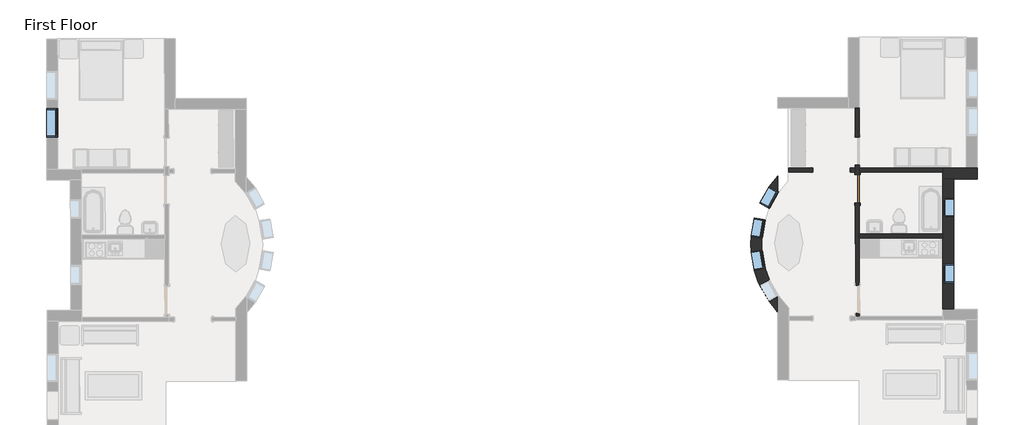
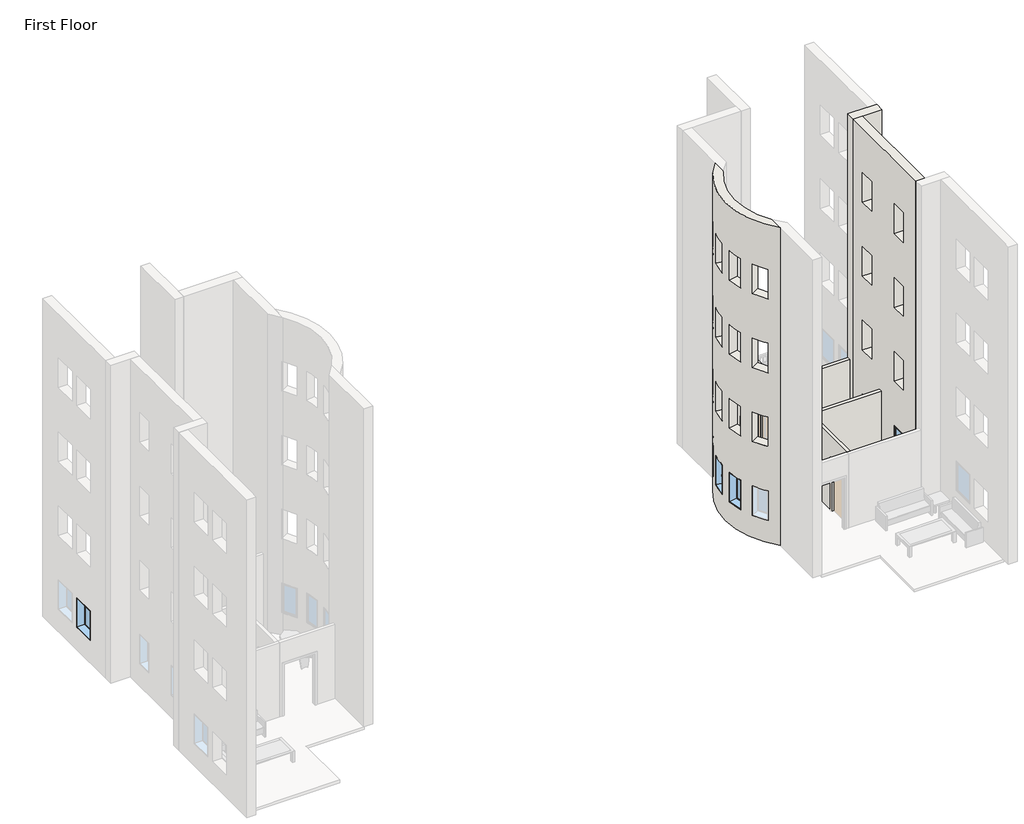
# One storey, part 7 of 21: 7 walls, 6 windows, 1 door.
"""IFC4 building model written with IfcOpenShell, lengths in millimetres."""

from ifc_helpers import new_model, si_unit, frame, origin, origin_with_axes, place, context, project, spatial, polyline, circle_curve, outline, extrude, faceted_brep, transform, mapped, element, save
from ifc_brep_helpers import plane_surface, cylinder_surface, revolved_surface, advanced_brep
from components import door_a3eb833a, window_60baf983, window_ed80354a, window_0e2fc6ce

model = new_model("IFC4")

# Units and contexts
model_context = context("Model", 3, world=origin())
ifc_project = project(units=[si_unit("LENGTHUNIT", "METRE", prefix="MILLI")], contexts=[model_context])

# Site, building, storey
site = spatial("IfcSite", under=ifc_project)
building = spatial("IfcBuilding", under=site)
storey = spatial("IfcBuildingStorey", under=building, Name="First Floor", Elevation=0.0)

# Door
placement = place(None, origin())
door_shape = door_a3eb833a(model_context)
element("IfcDoor", 1, ObjectType="Single-Flush : 36\" x 84\"", at=placement, inside=storey, context=model_context, shape_type="MappedRepresentation", body=[
    mapped(door_shape, transform((-3760.8053833, -16721.4900899, 0.0), x_axis=(-0.0007588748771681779, 0.9999997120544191, 0.0), y_axis=(-0.9999997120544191, -0.0007588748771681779, 0.0), z_axis=(0.0, 0.0, 1.0))),
])

# Walls
element("IfcWall", 2, ObjectType="Exterior - Brick on Mtl. Stud", at=placement, inside=storey, context=model_context, shape_type="Brep", body=[
    faceted_brep([(112.1827027, -16045.4507818, 0.0), (-240.2421958, -16045.7182283, 0.0), (-1002.2419764, -16046.296491, 0.0), (-1002.2419764, -16046.296491, 13106.4), (-240.2421958, -16045.7182283, 13106.4), (112.1827027, -16045.4507818, 13106.4), (112.4501492, -16397.8756804, 0.0), (112.4501492, -16397.8756804, 13106.4), (-649.5496314, -16398.453943, 13106.4), (-1001.97453, -16398.7213895, 13106.4), (-1001.97453, -16398.7213895, 0.0), (-649.5496314, -16398.453943, 0.0)], [[[0, 1, 2, 3, 4, 5]], [[6, 7, 8, 9, 10, 11]], [[2, 1, 0, 6, 11, 10]], [[5, 4, 3, 9, 8, 7]], [[0, 5, 7, 6]], [[3, 2, 10, 9]]]),
])
element("IfcWall", 3, ObjectType="Exterior - Brick on Mtl. Stud", at=placement, inside=storey, context=model_context, shape_type="Brep", body=[
    faceted_brep([(-998.7724005, -20618.2951745, 0.0), (-1000.5264639, -18306.89584, 0.0), (-1000.622841, -18179.8958766, 0.0), (-1001.97453, -16398.7213895, 0.0), (-649.5496314, -16398.453943, 0.0), (-646.347502, -20618.027728, 0.0), (-1001.97453, -16398.7213895, 13106.4), (-998.7724005, -20618.2951745, 13106.4), (-646.347502, -20618.027728, 13106.4), (-649.5496314, -16398.453943, 13106.4), (-1001.4998727, -17024.1962094, 8229.6), (-1001.0372626, -17633.7960339, 8229.6), (-1001.0372626, -17633.7960339, 7010.4), (-1001.4998727, -17024.1962094, 7010.4), (-999.8807372, -19157.795595, 8229.6), (-999.4181271, -19767.3954195, 8229.6), (-999.4181271, -19767.3954195, 7010.4), (-999.8807372, -19157.795595, 7010.4), (-1001.4998727, -17024.1962094, 5181.6), (-1001.0372626, -17633.7960339, 5181.6), (-1001.0372626, -17633.7960339, 3962.4), (-1001.4998727, -17024.1962094, 3962.4), (-999.8807372, -19157.795595, 5181.6), (-999.4181271, -19767.3954195, 5181.6), (-999.4181271, -19767.3954195, 3962.4), (-999.8807372, -19157.795595, 3962.4), (-1001.4998727, -17024.1962094, 11277.6), (-1001.0372626, -17633.7960339, 11277.6), (-1001.0372626, -17633.7960339, 10058.4), (-1001.4998727, -17024.1962094, 10058.4), (-999.8807372, -19157.795595, 11277.6), (-999.4181271, -19767.3954195, 11277.6), (-999.4181271, -19767.3954195, 10058.4), (-999.8807372, -19157.795595, 10058.4), (-1001.4998727, -17024.1962094, 2133.6), (-1001.0372626, -17633.7960339, 2133.6), (-1001.0372626, -17633.7960339, 914.4), (-1001.4998727, -17024.1962094, 914.4), (-999.8807372, -19157.795595, 2133.6), (-999.4181271, -19767.3954195, 2133.6), (-999.4181271, -19767.3954195, 914.4), (-999.8807372, -19157.795595, 914.4), (-649.0749742, -17023.9287629, 8229.6), (-649.0749742, -17023.9287629, 7010.4), (-648.612364, -17633.5285874, 7010.4), (-648.612364, -17633.5285874, 8229.6), (-647.4558387, -19157.5281485, 8229.6), (-647.4558387, -19157.5281485, 7010.4), (-646.9932286, -19767.127973, 7010.4), (-646.9932286, -19767.127973, 8229.6), (-649.0749742, -17023.9287629, 5181.6), (-649.0749742, -17023.9287629, 3962.4), (-648.612364, -17633.5285874, 3962.4), (-648.612364, -17633.5285874, 5181.6), (-647.4558387, -19157.5281485, 5181.6), (-647.4558387, -19157.5281485, 3962.4), (-646.9932286, -19767.127973, 3962.4), (-646.9932286, -19767.127973, 5181.6), (-649.0749742, -17023.9287629, 11277.6), (-649.0749742, -17023.9287629, 10058.4), (-648.612364, -17633.5285874, 10058.4), (-648.612364, -17633.5285874, 11277.6), (-647.4558387, -19157.5281485, 11277.6), (-647.4558387, -19157.5281485, 10058.4), (-646.9932286, -19767.127973, 10058.4), (-646.9932286, -19767.127973, 11277.6), (-649.0749742, -17023.9287629, 2133.6), (-649.0749742, -17023.9287629, 914.4), (-648.612364, -17633.5285874, 914.4), (-648.612364, -17633.5285874, 2133.6), (-647.4558387, -19157.5281485, 2133.6), (-647.4558387, -19157.5281485, 914.4), (-646.9932286, -19767.127973, 914.4), (-646.9932286, -19767.127973, 2133.6)], [[[0, 1, 2, 3, 4, 5]], [[6, 7, 8, 9]], [[3, 2, 1, 0, 7, 6], [10, 11, 12, 13], [14, 15, 16, 17], [18, 19, 20, 21], [22, 23, 24, 25], [26, 27, 28, 29], [30, 31, 32, 33], [34, 35, 36, 37], [38, 39, 40, 41]], [[4, 9, 8, 5], [42, 43, 44, 45], [46, 47, 48, 49], [50, 51, 52, 53], [54, 55, 56, 57], [58, 59, 60, 61], [62, 63, 64, 65], [66, 67, 68, 69], [70, 71, 72, 73]], [[3, 6, 9, 4]], [[0, 5, 8, 7]], [[43, 42, 10, 13]], [[44, 43, 13, 12]], [[45, 44, 12, 11]], [[42, 45, 11, 10]], [[47, 46, 14, 17]], [[48, 47, 17, 16]], [[49, 48, 16, 15]], [[46, 49, 15, 14]], [[51, 50, 18, 21]], [[52, 51, 21, 20]], [[53, 52, 20, 19]], [[50, 53, 19, 18]], [[55, 54, 22, 25]], [[56, 55, 25, 24]], [[57, 56, 24, 23]], [[54, 57, 23, 22]], [[59, 58, 26, 29]], [[60, 59, 29, 28]], [[61, 60, 28, 27]], [[58, 61, 27, 26]], [[63, 62, 30, 33]], [[64, 63, 33, 32]], [[65, 64, 32, 31]], [[62, 65, 31, 30]], [[67, 66, 34, 37]], [[68, 67, 37, 36]], [[69, 68, 36, 35]], [[66, 69, 35, 34]], [[71, 70, 38, 41]], [[72, 71, 41, 40]], [[73, 72, 40, 39]], [[70, 73, 39, 38]]]),
])
element("IfcWall", 4, ObjectType="Exterior - Brick on Mtl. Stud", at=placement, inside=storey, context=model_context, shape_type="AdvancedBrep", body=[
    advanced_brep(
    [(-6333.1224489, -20159.0462963, 13106.4), (-6335.6214097, -16866.0659449, 13106.4), (-6336.0447819, -16308.1715213, 13106.4), (-6332.6990767, -20716.9407198, 13106.4), (-6335.6214097, -16866.0659449, 0.0), (-6333.1224489, -20159.0462963, 0.0), (-6332.6990767, -20716.9407198, 0.0), (-6336.0447819, -16308.1715213, 0.0), (-6333.1224489, -20159.0462963, 11277.6), (-6611.0575673, -19665.0416615, 11277.6), (-6611.0575673, -19665.0416615, 10058.4), (-6333.1224489, -20159.0462963, 10058.4), (-6333.1224489, -20159.0462963, 8229.6), (-6611.0575673, -19665.0416615, 8229.6), (-6611.0575673, -19665.0416615, 7010.4), (-6333.1224489, -20159.0462963, 7010.4), (-6333.1224489, -20159.0462963, 5181.6), (-6611.0575673, -19665.0416615, 5181.6), (-6611.0575673, -19665.0416615, 3962.4), (-6333.1224489, -20159.0462963, 3962.4), (-6333.1224489, -20159.0462963, 2133.6), (-6611.0575673, -19665.0416615, 2133.6), (-6611.0575673, -19665.0416615, 914.4), (-6333.1224489, -20159.0462963, 914.4), (-6335.6214097, -16866.0659449, 914.4), (-6612.8064328, -17360.4918465, 914.4), (-6612.8064328, -17360.4918465, 2133.6), (-6335.6214097, -16866.0659449, 2133.6), (-6335.6214097, -16866.0659449, 3962.4), (-6612.8064328, -17360.4918465, 3962.4), (-6612.8064328, -17360.4918465, 5181.6), (-6335.6214097, -16866.0659449, 5181.6), (-6335.6214097, -16866.0659449, 7010.4), (-6612.8064328, -17360.4918465, 7010.4), (-6612.8064328, -17360.4918465, 8229.6), (-6335.6214097, -16866.0659449, 8229.6), (-6335.6214097, -16866.0659449, 10058.4), (-6612.8064328, -17360.4918465, 10058.4), (-6612.8064328, -17360.4918465, 11277.6), (-6335.6214097, -16866.0659449, 11277.6), (-6847.1793213, -18697.2497766, 8229.6), (-6847.1793213, -18697.2497766, 7010.4), (-6743.2546474, -19297.9259141, 7010.4), (-6743.2546474, -19297.9259141, 8229.6), (-6847.4590493, -18328.6409904, 8229.6), (-6744.4461709, -17727.8078131, 8229.6), (-6744.4461709, -17727.8078131, 7010.4), (-6847.4590493, -18328.6409904, 7010.4), (-6847.1793213, -18697.2497766, 5181.6), (-6847.1793213, -18697.2497766, 3962.4), (-6743.2546474, -19297.9259141, 3962.4), (-6743.2546474, -19297.9259141, 5181.6), (-6847.4590493, -18328.6409904, 5181.6), (-6744.4461709, -17727.8078131, 5181.6), (-6744.4461709, -17727.8078131, 3962.4), (-6847.4590493, -18328.6409904, 3962.4), (-6847.1793213, -18697.2497766, 11277.6), (-6847.1793213, -18697.2497766, 10058.4), (-6743.2546474, -19297.9259141, 10058.4), (-6743.2546474, -19297.9259141, 11277.6), (-6847.4590493, -18328.6409904, 11277.6), (-6744.4461709, -17727.8078131, 11277.6), (-6744.4461709, -17727.8078131, 10058.4), (-6847.4590493, -18328.6409904, 10058.4), (-6847.1793213, -18697.2497766, 2133.6), (-6847.1793213, -18697.2497766, 914.4), (-6743.2546474, -19297.9259141, 914.4), (-6743.2546474, -19297.9259141, 2133.6), (-6847.4590493, -18328.6409904, 2133.6), (-6744.4461709, -17727.8078131, 2133.6), (-6744.4461709, -17727.8078131, 914.4), (-6847.4590493, -18328.6409904, 914.4), (-6920.4665397, -17184.9711585, 2133.6), (-6920.4665397, -17184.9711585, 914.4), (-6618.3901869, -16655.478914, 914.4), (-6618.3901869, -16655.478914, 2133.6), (-6918.4509235, -19841.0290982, 914.4), (-6918.4509235, -19841.0290982, 2133.6), (-6615.5712821, -20370.0622568, 2133.6), (-6615.5712821, -20370.0622568, 914.4), (-6920.4665397, -17184.9711585, 11277.6), (-6920.4665397, -17184.9711585, 10058.4), (-6618.3901869, -16655.478914, 10058.4), (-6618.3901869, -16655.478914, 11277.6), (-6918.4509235, -19841.0290982, 10058.4), (-6918.4509235, -19841.0290982, 11277.6), (-6615.5712821, -20370.0622568, 11277.6), (-6615.5712821, -20370.0622568, 10058.4), (-6920.4665397, -17184.9711585, 5181.6), (-6920.4665397, -17184.9711585, 3962.4), (-6618.3901869, -16655.478914, 3962.4), (-6618.3901869, -16655.478914, 5181.6), (-6918.4509235, -19841.0290982, 3962.4), (-6918.4509235, -19841.0290982, 5181.6), (-6615.5712821, -20370.0622568, 5181.6), (-6615.5712821, -20370.0622568, 3962.4), (-6920.4665397, -17184.9711585, 8229.6), (-6920.4665397, -17184.9711585, 7010.4), (-6618.3901869, -16655.478914, 7010.4), (-6618.3901869, -16655.478914, 8229.6), (-6918.4509235, -19841.0290982, 7010.4), (-6918.4509235, -19841.0290982, 8229.6), (-6615.5712821, -20370.0622568, 8229.6), (-6615.5712821, -20370.0622568, 7010.4), (-7196.2006461, -18757.6349411, 8229.6), (-7092.2759723, -19358.3110786, 8229.6), (-7092.2759723, -19358.3110786, 7010.4), (-7196.2006461, -18757.6349411, 7010.4), (-7196.5716217, -18268.7856223, 8229.6), (-7196.5716217, -18268.7856223, 7010.4), (-7093.5587433, -17667.9524451, 7010.4), (-7093.5587433, -17667.9524451, 8229.6), (-7196.2006461, -18757.6349411, 5181.6), (-7092.2759723, -19358.3110786, 5181.6), (-7092.2759723, -19358.3110786, 3962.4), (-7196.2006461, -18757.6349411, 3962.4), (-7196.5716217, -18268.7856223, 5181.6), (-7196.5716217, -18268.7856223, 3962.4), (-7093.5587433, -17667.9524451, 3962.4), (-7093.5587433, -17667.9524451, 5181.6), (-7196.2006461, -18757.6349411, 11277.6), (-7092.2759723, -19358.3110786, 11277.6), (-7092.2759723, -19358.3110786, 10058.4), (-7196.2006461, -18757.6349411, 10058.4), (-7196.5716217, -18268.7856223, 11277.6), (-7196.5716217, -18268.7856223, 10058.4), (-7093.5587433, -17667.9524451, 10058.4), (-7093.5587433, -17667.9524451, 11277.6), (-7196.2006461, -18757.6349411, 2133.6), (-7092.2759723, -19358.3110786, 2133.6), (-7092.2759723, -19358.3110786, 914.4), (-7196.2006461, -18757.6349411, 914.4), (-7196.5716217, -18268.7856223, 2133.6), (-7196.5716217, -18268.7856223, 914.4), (-7093.5587433, -17667.9524451, 914.4), (-7093.5587433, -17667.9524451, 2133.6), (-6333.0850453, -20208.33453, 914.4), (-6333.0850453, -20208.33453, 2133.6), (-6333.0850453, -20208.33453, 3962.4), (-6333.0850453, -20208.33453, 5181.6), (-6333.0850453, -20208.33453, 7010.4), (-6333.0850453, -20208.33453, 8229.6), (-6333.0850453, -20208.33453, 10058.4), (-6333.0850453, -20208.33453, 11277.6), (-6335.6588133, -16816.7777111, 11277.6), (-6335.6588133, -16816.7777111, 10058.4), (-6335.6588133, -16816.7777111, 8229.6), (-6335.6588133, -16816.7777111, 7010.4), (-6335.6588133, -16816.7777111, 5181.6), (-6335.6588133, -16816.7777111, 3962.4), (-6335.6588133, -16816.7777111, 2133.6), (-6335.6588133, -16816.7777111, 914.4)],
    [
        (0, 1, circle_curve(frame((-3981.4527218, -18510.7705488, 13106.4), z_axis=(0.0, 0.0, -1.0), x_axis=(0.0007588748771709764, -0.9999997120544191, 0.0)), 2871.7875)),
        (1, 2),
        (2, 3, circle_curve(frame((-3981.4527218, -18510.7705488, 13106.4), z_axis=(0.0, 0.0, 1.0), x_axis=(0.0007588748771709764, -0.9999997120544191, 0.0)), 3224.2125)),
        (3, 0),
        (4, 5, circle_curve(frame((-3981.4527218, -18510.7705488, 0.0), z_axis=(0.0, 0.0, 1.0), x_axis=(0.0007588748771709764, -0.9999997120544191, 0.0)), 2871.7875)),
        (5, 6),
        (6, 7, circle_curve(frame((-3981.4527218, -18510.7705488, 0.0), z_axis=(0.0, 0.0, -1.0), x_axis=(0.0007588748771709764, -0.9999997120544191, 0.0)), 3224.2125)),
        (7, 4),
        (0, 8),
        (8, 9, circle_curve(frame((-3981.4527218, -18510.7705488, 11277.6), z_axis=(0.0, 0.0, -1.0), x_axis=(0.0007588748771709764, -0.9999997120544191, 0.0)), 2871.7875)),
        (9, 10),
        (10, 11, circle_curve(frame((-3981.4527218, -18510.7705488, 10058.4), z_axis=(0.0, 0.0, 1.0), x_axis=(0.0007588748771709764, -0.9999997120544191, 0.0)), 2871.7875)),
        (11, 12),
        (12, 13, circle_curve(frame((-3981.4527218, -18510.7705488, 8229.6), z_axis=(0.0, 0.0, -1.0), x_axis=(0.0007588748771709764, -0.9999997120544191, 0.0)), 2871.7875)),
        (13, 14),
        (14, 15, circle_curve(frame((-3981.4527218, -18510.7705488, 7010.4), z_axis=(0.0, 0.0, 1.0), x_axis=(0.0007588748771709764, -0.9999997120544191, 0.0)), 2871.7875)),
        (15, 16),
        (16, 17, circle_curve(frame((-3981.4527218, -18510.7705488, 5181.6), z_axis=(0.0, 0.0, -1.0), x_axis=(0.0007588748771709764, -0.9999997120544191, 0.0)), 2871.7875)),
        (17, 18),
        (18, 19, circle_curve(frame((-3981.4527218, -18510.7705488, 3962.4), z_axis=(0.0, 0.0, 1.0), x_axis=(0.0007588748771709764, -0.9999997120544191, 0.0)), 2871.7875)),
        (19, 20),
        (20, 21, circle_curve(frame((-3981.4527218, -18510.7705488, 2133.6), z_axis=(0.0, 0.0, -1.0), x_axis=(0.0007588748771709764, -0.9999997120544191, 0.0)), 2871.7875)),
        (21, 22),
        (22, 23, circle_curve(frame((-3981.4527218, -18510.7705488, 914.4), z_axis=(0.0, 0.0, 1.0), x_axis=(0.0007588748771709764, -0.9999997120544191, 0.0)), 2871.7875)),
        (23, 5),
        (4, 24),
        (24, 25, circle_curve(frame((-3981.4527218, -18510.7705488, 914.4), z_axis=(0.0, 0.0, 1.0), x_axis=(0.0007588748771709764, -0.9999997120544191, 0.0)), 2871.7875)),
        (25, 26),
        (26, 27, circle_curve(frame((-3981.4527218, -18510.7705488, 2133.6), z_axis=(0.0, 0.0, -1.0), x_axis=(0.0007588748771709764, -0.9999997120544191, 0.0)), 2871.7875)),
        (27, 28),
        (28, 29, circle_curve(frame((-3981.4527218, -18510.7705488, 3962.4), z_axis=(0.0, 0.0, 1.0), x_axis=(0.0007588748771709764, -0.9999997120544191, 0.0)), 2871.7875)),
        (29, 30),
        (30, 31, circle_curve(frame((-3981.4527218, -18510.7705488, 5181.6), z_axis=(0.0, 0.0, -1.0), x_axis=(0.0007588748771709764, -0.9999997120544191, 0.0)), 2871.7875)),
        (31, 32),
        (32, 33, circle_curve(frame((-3981.4527218, -18510.7705488, 7010.4), z_axis=(0.0, 0.0, 1.0), x_axis=(0.0007588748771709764, -0.9999997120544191, 0.0)), 2871.7875)),
        (33, 34),
        (34, 35, circle_curve(frame((-3981.4527218, -18510.7705488, 8229.6), z_axis=(0.0, 0.0, -1.0), x_axis=(0.0007588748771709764, -0.9999997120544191, 0.0)), 2871.7875)),
        (35, 36),
        (36, 37, circle_curve(frame((-3981.4527218, -18510.7705488, 10058.4), z_axis=(0.0, 0.0, 1.0), x_axis=(0.0007588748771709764, -0.9999997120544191, 0.0)), 2871.7875)),
        (37, 38),
        (38, 39, circle_curve(frame((-3981.4527218, -18510.7705488, 11277.6), z_axis=(0.0, 0.0, -1.0), x_axis=(0.0007588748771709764, -0.9999997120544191, 0.0)), 2871.7875)),
        (39, 1),
        (40, 41),
        (41, 42, circle_curve(frame((-3981.4527218, -18510.7705488, 7010.4), z_axis=(0.0, 0.0, 1.0), x_axis=(0.0007588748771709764, -0.9999997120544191, 0.0)), 2871.7875)),
        (42, 43),
        (43, 40, circle_curve(frame((-3981.4527218, -18510.7705488, 8229.6), z_axis=(0.0, 0.0, -1.0), x_axis=(0.0007588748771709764, -0.9999997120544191, 0.0)), 2871.7875)),
        (44, 45, circle_curve(frame((-3981.4527218, -18510.7705488, 8229.6), z_axis=(0.0, 0.0, -1.0), x_axis=(0.0007588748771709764, -0.9999997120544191, 0.0)), 2871.7875)),
        (45, 46),
        (46, 47, circle_curve(frame((-3981.4527218, -18510.7705488, 7010.4), z_axis=(0.0, 0.0, 1.0), x_axis=(0.0007588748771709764, -0.9999997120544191, 0.0)), 2871.7875)),
        (47, 44),
        (48, 49),
        (49, 50, circle_curve(frame((-3981.4527218, -18510.7705488, 3962.4), z_axis=(0.0, 0.0, 1.0), x_axis=(0.0007588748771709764, -0.9999997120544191, 0.0)), 2871.7875)),
        (50, 51),
        (51, 48, circle_curve(frame((-3981.4527218, -18510.7705488, 5181.6), z_axis=(0.0, 0.0, -1.0), x_axis=(0.0007588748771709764, -0.9999997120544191, 0.0)), 2871.7875)),
        (52, 53, circle_curve(frame((-3981.4527218, -18510.7705488, 5181.6), z_axis=(0.0, 0.0, -1.0), x_axis=(0.0007588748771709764, -0.9999997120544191, 0.0)), 2871.7875)),
        (53, 54),
        (54, 55, circle_curve(frame((-3981.4527218, -18510.7705488, 3962.4), z_axis=(0.0, 0.0, 1.0), x_axis=(0.0007588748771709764, -0.9999997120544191, 0.0)), 2871.7875)),
        (55, 52),
        (56, 57),
        (57, 58, circle_curve(frame((-3981.4527218, -18510.7705488, 10058.4), z_axis=(0.0, 0.0, 1.0), x_axis=(0.0007588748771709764, -0.9999997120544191, 0.0)), 2871.7875)),
        (58, 59),
        (59, 56, circle_curve(frame((-3981.4527218, -18510.7705488, 11277.6), z_axis=(0.0, 0.0, -1.0), x_axis=(0.0007588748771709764, -0.9999997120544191, 0.0)), 2871.7875)),
        (60, 61, circle_curve(frame((-3981.4527218, -18510.7705488, 11277.6), z_axis=(0.0, 0.0, -1.0), x_axis=(0.0007588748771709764, -0.9999997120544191, 0.0)), 2871.7875)),
        (61, 62),
        (62, 63, circle_curve(frame((-3981.4527218, -18510.7705488, 10058.4), z_axis=(0.0, 0.0, 1.0), x_axis=(0.0007588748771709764, -0.9999997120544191, 0.0)), 2871.7875)),
        (63, 60),
        (64, 65),
        (65, 66, circle_curve(frame((-3981.4527218, -18510.7705488, 914.4), z_axis=(0.0, 0.0, 1.0), x_axis=(0.0007588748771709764, -0.9999997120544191, 0.0)), 2871.7875)),
        (66, 67),
        (67, 64, circle_curve(frame((-3981.4527218, -18510.7705488, 2133.6), z_axis=(0.0, 0.0, -1.0), x_axis=(0.0007588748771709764, -0.9999997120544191, 0.0)), 2871.7875)),
        (68, 69, circle_curve(frame((-3981.4527218, -18510.7705488, 2133.6), z_axis=(0.0, 0.0, -1.0), x_axis=(0.0007588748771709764, -0.9999997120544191, 0.0)), 2871.7875)),
        (69, 70),
        (70, 71, circle_curve(frame((-3981.4527218, -18510.7705488, 914.4), z_axis=(0.0, 0.0, 1.0), x_axis=(0.0007588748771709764, -0.9999997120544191, 0.0)), 2871.7875)),
        (71, 68),
        (2, 7),
        (6, 3),
        (72, 73),
        (73, 74, circle_curve(frame((-3981.4527218, -18510.7705488, 914.4), z_axis=(0.0, 0.0, -1.0), x_axis=(0.0007588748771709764, -0.9999997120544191, 0.0)), 3224.2125)),
        (74, 75),
        (75, 72, circle_curve(frame((-3981.4527218, -18510.7705488, 2133.6), z_axis=(0.0, 0.0, 1.0), x_axis=(0.0007588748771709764, -0.9999997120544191, 0.0)), 3224.2125)),
        (76, 77),
        (77, 78, circle_curve(frame((-3981.4527218, -18510.7705488, 2133.6), z_axis=(0.0, 0.0, 1.0), x_axis=(0.0007588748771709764, -0.9999997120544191, 0.0)), 3224.2125)),
        (78, 79),
        (79, 76, circle_curve(frame((-3981.4527218, -18510.7705488, 914.4), z_axis=(0.0, 0.0, -1.0), x_axis=(0.0007588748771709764, -0.9999997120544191, 0.0)), 3224.2125)),
        (80, 81),
        (81, 82, circle_curve(frame((-3981.4527218, -18510.7705488, 10058.4), z_axis=(0.0, 0.0, -1.0), x_axis=(0.0007588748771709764, -0.9999997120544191, 0.0)), 3224.2125)),
        (82, 83),
        (83, 80, circle_curve(frame((-3981.4527218, -18510.7705488, 11277.6), z_axis=(0.0, 0.0, 1.0), x_axis=(0.0007588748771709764, -0.9999997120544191, 0.0)), 3224.2125)),
        (84, 85),
        (85, 86, circle_curve(frame((-3981.4527218, -18510.7705488, 11277.6), z_axis=(0.0, 0.0, 1.0), x_axis=(0.0007588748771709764, -0.9999997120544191, 0.0)), 3224.2125)),
        (86, 87),
        (87, 84, circle_curve(frame((-3981.4527218, -18510.7705488, 10058.4), z_axis=(0.0, 0.0, -1.0), x_axis=(0.0007588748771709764, -0.9999997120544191, 0.0)), 3224.2125)),
        (88, 89),
        (89, 90, circle_curve(frame((-3981.4527218, -18510.7705488, 3962.4), z_axis=(0.0, 0.0, -1.0), x_axis=(0.0007588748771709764, -0.9999997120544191, 0.0)), 3224.2125)),
        (90, 91),
        (91, 88, circle_curve(frame((-3981.4527218, -18510.7705488, 5181.6), z_axis=(0.0, 0.0, 1.0), x_axis=(0.0007588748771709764, -0.9999997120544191, 0.0)), 3224.2125)),
        (92, 93),
        (93, 94, circle_curve(frame((-3981.4527218, -18510.7705488, 5181.6), z_axis=(0.0, 0.0, 1.0), x_axis=(0.0007588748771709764, -0.9999997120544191, 0.0)), 3224.2125)),
        (94, 95),
        (95, 92, circle_curve(frame((-3981.4527218, -18510.7705488, 3962.4), z_axis=(0.0, 0.0, -1.0), x_axis=(0.0007588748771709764, -0.9999997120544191, 0.0)), 3224.2125)),
        (96, 97),
        (97, 98, circle_curve(frame((-3981.4527218, -18510.7705488, 7010.4), z_axis=(0.0, 0.0, -1.0), x_axis=(0.0007588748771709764, -0.9999997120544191, 0.0)), 3224.2125)),
        (98, 99),
        (99, 96, circle_curve(frame((-3981.4527218, -18510.7705488, 8229.6), z_axis=(0.0, 0.0, 1.0), x_axis=(0.0007588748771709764, -0.9999997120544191, 0.0)), 3224.2125)),
        (100, 101),
        (101, 102, circle_curve(frame((-3981.4527218, -18510.7705488, 8229.6), z_axis=(0.0, 0.0, 1.0), x_axis=(0.0007588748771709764, -0.9999997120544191, 0.0)), 3224.2125)),
        (102, 103),
        (103, 100, circle_curve(frame((-3981.4527218, -18510.7705488, 7010.4), z_axis=(0.0, 0.0, -1.0), x_axis=(0.0007588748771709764, -0.9999997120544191, 0.0)), 3224.2125)),
        (104, 105, circle_curve(frame((-3981.4527218, -18510.7705488, 8229.6), z_axis=(0.0, 0.0, 1.0), x_axis=(0.0007588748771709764, -0.9999997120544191, 0.0)), 3224.2125)),
        (105, 106),
        (106, 107, circle_curve(frame((-3981.4527218, -18510.7705488, 7010.4), z_axis=(0.0, 0.0, -1.0), x_axis=(0.0007588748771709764, -0.9999997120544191, 0.0)), 3224.2125)),
        (107, 104),
        (108, 109),
        (109, 110, circle_curve(frame((-3981.4527218, -18510.7705488, 7010.4), z_axis=(0.0, 0.0, -1.0), x_axis=(0.0007588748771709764, -0.9999997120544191, 0.0)), 3224.2125)),
        (110, 111),
        (111, 108, circle_curve(frame((-3981.4527218, -18510.7705488, 8229.6), z_axis=(0.0, 0.0, 1.0), x_axis=(0.0007588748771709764, -0.9999997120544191, 0.0)), 3224.2125)),
        (112, 113, circle_curve(frame((-3981.4527218, -18510.7705488, 5181.6), z_axis=(0.0, 0.0, 1.0), x_axis=(0.0007588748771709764, -0.9999997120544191, 0.0)), 3224.2125)),
        (113, 114),
        (114, 115, circle_curve(frame((-3981.4527218, -18510.7705488, 3962.4), z_axis=(0.0, 0.0, -1.0), x_axis=(0.0007588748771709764, -0.9999997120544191, 0.0)), 3224.2125)),
        (115, 112),
        (116, 117),
        (117, 118, circle_curve(frame((-3981.4527218, -18510.7705488, 3962.4), z_axis=(0.0, 0.0, -1.0), x_axis=(0.0007588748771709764, -0.9999997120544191, 0.0)), 3224.2125)),
        (118, 119),
        (119, 116, circle_curve(frame((-3981.4527218, -18510.7705488, 5181.6), z_axis=(0.0, 0.0, 1.0), x_axis=(0.0007588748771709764, -0.9999997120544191, 0.0)), 3224.2125)),
        (120, 121, circle_curve(frame((-3981.4527218, -18510.7705488, 11277.6), z_axis=(0.0, 0.0, 1.0), x_axis=(0.0007588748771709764, -0.9999997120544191, 0.0)), 3224.2125)),
        (121, 122),
        (122, 123, circle_curve(frame((-3981.4527218, -18510.7705488, 10058.4), z_axis=(0.0, 0.0, -1.0), x_axis=(0.0007588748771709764, -0.9999997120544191, 0.0)), 3224.2125)),
        (123, 120),
        (124, 125),
        (125, 126, circle_curve(frame((-3981.4527218, -18510.7705488, 10058.4), z_axis=(0.0, 0.0, -1.0), x_axis=(0.0007588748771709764, -0.9999997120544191, 0.0)), 3224.2125)),
        (126, 127),
        (127, 124, circle_curve(frame((-3981.4527218, -18510.7705488, 11277.6), z_axis=(0.0, 0.0, 1.0), x_axis=(0.0007588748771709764, -0.9999997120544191, 0.0)), 3224.2125)),
        (128, 129, circle_curve(frame((-3981.4527218, -18510.7705488, 2133.6), z_axis=(0.0, 0.0, 1.0), x_axis=(0.0007588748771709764, -0.9999997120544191, 0.0)), 3224.2125)),
        (129, 130),
        (130, 131, circle_curve(frame((-3981.4527218, -18510.7705488, 914.4), z_axis=(0.0, 0.0, -1.0), x_axis=(0.0007588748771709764, -0.9999997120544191, 0.0)), 3224.2125)),
        (131, 128),
        (132, 133),
        (133, 134, circle_curve(frame((-3981.4527218, -18510.7705488, 914.4), z_axis=(0.0, 0.0, -1.0), x_axis=(0.0007588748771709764, -0.9999997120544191, 0.0)), 3224.2125)),
        (134, 135),
        (135, 132, circle_curve(frame((-3981.4527218, -18510.7705488, 2133.6), z_axis=(0.0, 0.0, 1.0), x_axis=(0.0007588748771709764, -0.9999997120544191, 0.0)), 3224.2125)),
        (23, 136),
        (136, 137),
        (137, 20),
        (19, 138),
        (138, 139),
        (139, 16),
        (15, 140),
        (140, 141),
        (141, 12),
        (11, 142),
        (142, 143),
        (143, 8),
        (39, 144),
        (144, 145),
        (145, 36),
        (35, 146),
        (146, 147),
        (147, 32),
        (31, 148),
        (148, 149),
        (149, 28),
        (27, 150),
        (150, 151),
        (151, 24),
        (72, 26),
        (25, 73),
        (151, 74),
        (150, 75),
        (21, 77),
        (76, 22),
        (79, 136),
        (78, 137),
        (80, 38),
        (37, 81),
        (145, 82),
        (144, 83),
        (9, 85),
        (84, 10),
        (87, 142),
        (86, 143),
        (88, 30),
        (29, 89),
        (149, 90),
        (148, 91),
        (17, 93),
        (92, 18),
        (95, 138),
        (94, 139),
        (96, 34),
        (33, 97),
        (147, 98),
        (146, 99),
        (13, 101),
        (100, 14),
        (103, 140),
        (102, 141),
        (40, 104),
        (107, 41),
        (106, 42),
        (105, 43),
        (108, 44),
        (47, 109),
        (46, 110),
        (45, 111),
        (48, 112),
        (115, 49),
        (114, 50),
        (113, 51),
        (116, 52),
        (55, 117),
        (54, 118),
        (53, 119),
        (56, 120),
        (123, 57),
        (122, 58),
        (121, 59),
        (124, 60),
        (63, 125),
        (62, 126),
        (61, 127),
        (64, 128),
        (131, 65),
        (130, 66),
        (129, 67),
        (132, 68),
        (71, 133),
        (70, 134),
        (69, 135),
    ],
    [
        plane_surface(frame((-3979.2733944, -21382.5572219, 13106.4), z_axis=(0.0, 0.0, 1.0), x_axis=(-0.999999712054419, -0.0007588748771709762, 0.0))),
        plane_surface(frame((-3979.2733944, -21382.5572219, 0.0), z_axis=(0.0, 0.0, -1.0), x_axis=(0.999999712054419, 0.0007588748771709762, 0.0))),
        revolved_surface(polyline([(-3979.273394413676, -21382.557221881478, 0.0), (-3979.273394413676, -21382.557221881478, 13106.4)]), (-3981.4527218, -18510.7705488, 0.0), (0.0, 0.0, -1.0)),
        cylinder_surface(frame((-3981.4527218, -18510.7705488, 0.0), z_axis=(0.0, 0.0, 1.0), x_axis=(0.0007588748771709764, -0.9999997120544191, 0.0)), 3224.2125),
        plane_surface(frame((-6330.9023534, -23084.5548041, 0.0), z_axis=(0.9999997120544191, 0.0007588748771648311, 0.0), x_axis=(0.0007588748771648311, -0.9999997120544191, 0.0))),
        plane_surface(frame((-6337.8415053, -13940.5574371, 0.0), z_axis=(0.9999997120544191, 0.0007588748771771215, 0.0), x_axis=(0.0007588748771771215, -0.9999997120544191, 0.0))),
        plane_surface(frame((-5595.1885252, -17941.044837, 2133.6), z_axis=(0.49553207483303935, 0.868589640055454, 0.0), x_axis=(-0.868589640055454, 0.49553207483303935, 0.0))),
        plane_surface(frame((-5595.1885252, -17941.044837, 914.4), z_axis=(0.0, 0.0, 1.0), x_axis=(-0.868589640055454, 0.49553207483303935, 0.0))),
        plane_surface(frame((-5293.1121724, -17411.5525925, 914.4), z_axis=(-0.49553207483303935, -0.868589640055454, 0.0), x_axis=(-0.868589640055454, 0.49553207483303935, 0.0))),
        plane_surface(frame((-5293.1121724, -17411.5525925, 2133.6), z_axis=(0.0, 0.0, -1.0), x_axis=(-0.868589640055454, 0.49553207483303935, 0.0))),
        plane_surface(frame((-8239.4877584, -20597.3430577, 2133.6), z_axis=(0.4968498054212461, -0.8678365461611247, 0.0), x_axis=(0.8678365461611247, 0.4968498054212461, 0.0))),
        plane_surface(frame((-8239.4877584, -20597.3430577, 914.4), z_axis=(0.0, 0.0, 1.0), x_axis=(0.8678365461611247, 0.4968498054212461, 0.0))),
        plane_surface(frame((-7936.6081171, -21126.3762162, 914.4), z_axis=(-0.4968498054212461, 0.8678365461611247, 0.0), x_axis=(0.8678365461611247, 0.4968498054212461, 0.0))),
        plane_surface(frame((-7936.6081171, -21126.3762162, 2133.6), z_axis=(0.0, 0.0, -1.0), x_axis=(0.8678365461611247, 0.4968498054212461, 0.0))),
        plane_surface(frame((-5595.1885252, -17941.044837, 11277.6), z_axis=(0.495532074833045, 0.8685896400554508, 0.0), x_axis=(-0.8685896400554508, 0.495532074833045, 0.0))),
        plane_surface(frame((-5595.1885252, -17941.044837, 10058.4), z_axis=(0.0, 0.0, 1.0), x_axis=(-0.8685896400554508, 0.495532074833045, 0.0))),
        plane_surface(frame((-5293.1121724, -17411.5525925, 10058.4), z_axis=(-0.49553207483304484, -0.8685896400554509, 0.0), x_axis=(-0.8685896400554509, 0.49553207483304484, 0.0))),
        plane_surface(frame((-5293.1121724, -17411.5525925, 11277.6), z_axis=(0.0, 0.0, -1.0000000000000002), x_axis=(-0.8685896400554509, 0.49553207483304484, 0.0))),
        plane_surface(frame((-8239.4877584, -20597.3430577, 11277.6), z_axis=(0.4968498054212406, -0.8678365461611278, 0.0), x_axis=(0.8678365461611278, 0.4968498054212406, 0.0))),
        plane_surface(frame((-8239.4877584, -20597.3430577, 10058.4), z_axis=(0.0, 0.0, 1.0), x_axis=(0.8678365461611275, 0.49684980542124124, 0.0))),
        plane_surface(frame((-7936.6081171, -21126.3762162, 10058.4), z_axis=(-0.4968498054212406, 0.8678365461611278, 0.0), x_axis=(0.8678365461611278, 0.4968498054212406, 0.0))),
        plane_surface(frame((-7936.6081171, -21126.3762162, 11277.6), z_axis=(0.0, 0.0, -1.0), x_axis=(0.8678365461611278, 0.4968498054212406, 0.0))),
        plane_surface(frame((-5595.1885252, -17941.044837, 5181.6), z_axis=(0.495532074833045, 0.8685896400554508, 0.0), x_axis=(-0.8685896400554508, 0.495532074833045, 0.0))),
        plane_surface(frame((-5595.1885252, -17941.044837, 3962.4), z_axis=(0.0, 0.0, 1.0), x_axis=(-0.8685896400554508, 0.495532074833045, 0.0))),
        plane_surface(frame((-5293.1121724, -17411.5525925, 3962.4), z_axis=(-0.49553207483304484, -0.8685896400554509, 0.0), x_axis=(-0.8685896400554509, 0.49553207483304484, 0.0))),
        plane_surface(frame((-5293.1121724, -17411.5525925, 5181.6), z_axis=(0.0, 0.0, -1.0000000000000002), x_axis=(-0.8685896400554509, 0.49553207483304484, 0.0))),
        plane_surface(frame((-8239.4877584, -20597.3430577, 5181.6), z_axis=(0.4968498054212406, -0.8678365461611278, 0.0), x_axis=(0.8678365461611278, 0.4968498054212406, 0.0))),
        plane_surface(frame((-8239.4877584, -20597.3430577, 3962.4), z_axis=(0.0, 0.0, 1.0), x_axis=(0.8678365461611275, 0.49684980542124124, 0.0))),
        plane_surface(frame((-7936.6081171, -21126.3762162, 3962.4), z_axis=(-0.4968498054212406, 0.8678365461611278, 0.0), x_axis=(0.8678365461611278, 0.4968498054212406, 0.0))),
        plane_surface(frame((-7936.6081171, -21126.3762162, 5181.6), z_axis=(0.0, 0.0, -1.0), x_axis=(0.8678365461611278, 0.4968498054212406, 0.0))),
        plane_surface(frame((-5595.1885252, -17941.044837, 8229.6), z_axis=(0.495532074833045, 0.8685896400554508, 0.0), x_axis=(-0.8685896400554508, 0.495532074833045, 0.0))),
        plane_surface(frame((-5595.1885252, -17941.044837, 7010.4), z_axis=(0.0, 0.0, 1.0), x_axis=(-0.8685896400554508, 0.495532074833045, 0.0))),
        plane_surface(frame((-5293.1121724, -17411.5525925, 7010.4), z_axis=(-0.49553207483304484, -0.8685896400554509, 0.0), x_axis=(-0.8685896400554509, 0.49553207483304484, 0.0))),
        plane_surface(frame((-5293.1121724, -17411.5525925, 8229.6), z_axis=(0.0, 0.0, -1.0000000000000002), x_axis=(-0.8685896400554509, 0.49553207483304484, 0.0))),
        plane_surface(frame((-8239.4877584, -20597.3430577, 8229.6), z_axis=(0.4968498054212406, -0.8678365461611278, 0.0), x_axis=(0.8678365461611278, 0.4968498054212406, 0.0))),
        plane_surface(frame((-8239.4877584, -20597.3430577, 7010.4), z_axis=(0.0, 0.0, 1.0), x_axis=(0.8678365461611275, 0.49684980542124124, 0.0))),
        plane_surface(frame((-7936.6081171, -21126.3762162, 7010.4), z_axis=(-0.4968498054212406, 0.8678365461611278, 0.0), x_axis=(0.8678365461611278, 0.4968498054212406, 0.0))),
        plane_surface(frame((-7936.6081171, -21126.3762162, 8229.6), z_axis=(0.0, 0.0, -1.0), x_axis=(0.8678365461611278, 0.4968498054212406, 0.0))),
        plane_surface(frame((-6847.1793213, -18697.2497766, 8229.6), z_axis=(0.17048010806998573, -0.985361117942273, 0.0), x_axis=(-0.985361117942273, -0.17048010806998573, 0.0))),
        plane_surface(frame((-6847.1793213, -18697.2497766, 7010.4), z_axis=(0.0, 0.0, 1.0), x_axis=(-0.985361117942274, -0.1704801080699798, 0.0))),
        plane_surface(frame((-6743.2546474, -19297.9259141, 7010.4), z_axis=(-0.1704801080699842, 0.9853611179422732, 0.0), x_axis=(-0.9853611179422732, -0.1704801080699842, 0.0))),
        plane_surface(frame((-6743.2546474, -19297.9259141, 8229.6), z_axis=(0.0, 0.0, -1.0), x_axis=(-0.9853611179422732, -0.1704801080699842, 0.0))),
        plane_surface(frame((-7196.5716217, -18268.7856223, 8229.6), z_axis=(0.16898438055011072, 0.9856187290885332, 0.0), x_axis=(0.9856187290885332, -0.16898438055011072, 0.0))),
        plane_surface(frame((-7196.5716217, -18268.7856223, 7010.4), z_axis=(0.0, 0.0, 1.0), x_axis=(0.9856187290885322, -0.16898438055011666, 0.0))),
        plane_surface(frame((-7093.5587433, -17667.9524451, 7010.4), z_axis=(-0.16898438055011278, -0.9856187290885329, 0.0), x_axis=(0.9856187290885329, -0.16898438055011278, 0.0))),
        plane_surface(frame((-7093.5587433, -17667.9524451, 8229.6), z_axis=(0.0, 0.0, -1.0000000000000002), x_axis=(0.9856187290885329, -0.16898438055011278, 0.0))),
        plane_surface(frame((-6847.1793213, -18697.2497766, 5181.6), z_axis=(0.17048010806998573, -0.985361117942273, 0.0), x_axis=(-0.985361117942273, -0.17048010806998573, 0.0))),
        plane_surface(frame((-6847.1793213, -18697.2497766, 3962.4), z_axis=(0.0, 0.0, 1.0), x_axis=(-0.985361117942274, -0.1704801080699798, 0.0))),
        plane_surface(frame((-6743.2546474, -19297.9259141, 3962.4), z_axis=(-0.1704801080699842, 0.9853611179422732, 0.0), x_axis=(-0.9853611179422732, -0.1704801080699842, 0.0))),
        plane_surface(frame((-6743.2546474, -19297.9259141, 5181.6), z_axis=(0.0, 0.0, -1.0), x_axis=(-0.9853611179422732, -0.1704801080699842, 0.0))),
        plane_surface(frame((-7196.5716217, -18268.7856223, 5181.6), z_axis=(0.16898438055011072, 0.9856187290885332, 0.0), x_axis=(0.9856187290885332, -0.16898438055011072, 0.0))),
        plane_surface(frame((-7196.5716217, -18268.7856223, 3962.4), z_axis=(0.0, 0.0, 1.0), x_axis=(0.9856187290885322, -0.16898438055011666, 0.0))),
        plane_surface(frame((-7093.5587433, -17667.9524451, 3962.4), z_axis=(-0.16898438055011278, -0.9856187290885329, 0.0), x_axis=(0.9856187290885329, -0.16898438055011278, 0.0))),
        plane_surface(frame((-7093.5587433, -17667.9524451, 5181.6), z_axis=(0.0, 0.0, -1.0000000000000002), x_axis=(0.9856187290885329, -0.16898438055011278, 0.0))),
        plane_surface(frame((-6847.1793213, -18697.2497766, 11277.6), z_axis=(0.17048010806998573, -0.985361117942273, 0.0), x_axis=(-0.985361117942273, -0.17048010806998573, 0.0))),
        plane_surface(frame((-6847.1793213, -18697.2497766, 10058.4), z_axis=(0.0, 0.0, 1.0), x_axis=(-0.985361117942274, -0.1704801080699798, 0.0))),
        plane_surface(frame((-6743.2546474, -19297.9259141, 10058.4), z_axis=(-0.1704801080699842, 0.9853611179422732, 0.0), x_axis=(-0.9853611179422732, -0.1704801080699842, 0.0))),
        plane_surface(frame((-6743.2546474, -19297.9259141, 11277.6), z_axis=(0.0, 0.0, -1.0), x_axis=(-0.9853611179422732, -0.1704801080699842, 0.0))),
        plane_surface(frame((-7196.5716217, -18268.7856223, 11277.6), z_axis=(0.16898438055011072, 0.9856187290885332, 0.0), x_axis=(0.9856187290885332, -0.16898438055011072, 0.0))),
        plane_surface(frame((-7196.5716217, -18268.7856223, 10058.4), z_axis=(0.0, 0.0, 1.0), x_axis=(0.9856187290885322, -0.16898438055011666, 0.0))),
        plane_surface(frame((-7093.5587433, -17667.9524451, 10058.4), z_axis=(-0.16898438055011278, -0.9856187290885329, 0.0), x_axis=(0.9856187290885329, -0.16898438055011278, 0.0))),
        plane_surface(frame((-7093.5587433, -17667.9524451, 11277.6), z_axis=(0.0, 0.0, -1.0000000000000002), x_axis=(0.9856187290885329, -0.16898438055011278, 0.0))),
        plane_surface(frame((-6847.1793213, -18697.2497766, 2133.6), z_axis=(0.1704801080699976, -0.985361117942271, 0.0), x_axis=(-0.985361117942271, -0.1704801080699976, 0.0))),
        plane_surface(frame((-6847.1793213, -18697.2497766, 914.4), z_axis=(0.0, 0.0, 1.0), x_axis=(-0.985361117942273, -0.17048010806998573, 0.0))),
        plane_surface(frame((-6743.2546474, -19297.9259141, 914.4), z_axis=(-0.17048010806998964, 0.9853611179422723, 0.0), x_axis=(-0.9853611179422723, -0.17048010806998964, 0.0))),
        plane_surface(frame((-6743.2546474, -19297.9259141, 2133.6), z_axis=(0.0, 0.0, -1.0), x_axis=(-0.9853611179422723, -0.17048010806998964, 0.0))),
        plane_surface(frame((-7196.5716217, -18268.7856223, 2133.6), z_axis=(0.1689843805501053, 0.9856187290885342, 0.0), x_axis=(0.9856187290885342, -0.1689843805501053, 0.0))),
        plane_surface(frame((-7196.5716217, -18268.7856223, 914.4), z_axis=(0.0, 0.0, 1.0000000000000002), x_axis=(0.9856187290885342, -0.1689843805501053, 0.0))),
        plane_surface(frame((-7093.5587433, -17667.9524451, 914.4), z_axis=(-0.1689843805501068, -0.9856187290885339, 0.0), x_axis=(0.9856187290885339, -0.1689843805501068, 0.0))),
        plane_surface(frame((-7093.5587433, -17667.9524451, 2133.6), z_axis=(0.0, 0.0, -1.0), x_axis=(0.9856187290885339, -0.1689843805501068, 0.0))),
    ],
    [
        (0, [[1, 2, 3, 4]]),
        (1, [[5, 6, 7, 8]]),
        (2, [[-1, 9, 10, 11, 12, 13, 14, 15, 16, 17, 18, 19, 20, 21, 22, 23, 24, 25, -5, 26, 27, 28, 29, 30, 31, 32, 33, 34, 35, 36, 37, 38, 39, 40, 41, 42], [43, 44, 45, 46], [47, 48, 49, 50], [51, 52, 53, 54], [55, 56, 57, 58], [59, 60, 61, 62], [63, 64, 65, 66], [67, 68, 69, 70], [71, 72, 73, 74]]),
        (3, [[-3, 75, -7, 76], [77, 78, 79, 80], [81, 82, 83, 84], [85, 86, 87, 88], [89, 90, 91, 92], [93, 94, 95, 96], [97, 98, 99, 100], [101, 102, 103, 104], [105, 106, 107, 108], [109, 110, 111, 112], [113, 114, 115, 116], [117, 118, 119, 120], [121, 122, 123, 124], [125, 126, 127, 128], [129, 130, 131, 132], [133, 134, 135, 136], [137, 138, 139, 140]]),
        (4, [[-4, -76, -6, -25, 141, 142, 143, -21, 144, 145, 146, -17, 147, 148, 149, -13, 150, 151, 152, -9]]),
        (5, [[-2, -42, 153, 154, 155, -38, 156, 157, 158, -34, 159, 160, 161, -30, 162, 163, 164, -26, -8, -75]]),
        (6, [[165, -28, 166, -77]]),
        (7, [[-166, -27, -164, 167, -78]]),
        (8, [[-167, -163, 168, -79]]),
        (9, [[-165, -80, -168, -162, -29]]),
        (10, [[169, -81, 170, -23]]),
        (11, [[-170, -84, 171, -141, -24]]),
        (12, [[-171, -83, 172, -142]]),
        (13, [[-169, -22, -143, -172, -82]]),
        (14, [[173, -40, 174, -85]]),
        (15, [[-174, -39, -155, 175, -86]]),
        (16, [[-175, -154, 176, -87]]),
        (17, [[-173, -88, -176, -153, -41]]),
        (18, [[177, -89, 178, -11]]),
        (19, [[-178, -92, 179, -150, -12]]),
        (20, [[-179, -91, 180, -151]]),
        (21, [[-177, -10, -152, -180, -90]]),
        (22, [[181, -32, 182, -93]]),
        (23, [[-182, -31, -161, 183, -94]]),
        (24, [[-183, -160, 184, -95]]),
        (25, [[-181, -96, -184, -159, -33]]),
        (26, [[185, -97, 186, -19]]),
        (27, [[-186, -100, 187, -144, -20]]),
        (28, [[-187, -99, 188, -145]]),
        (29, [[-185, -18, -146, -188, -98]]),
        (30, [[189, -36, 190, -101]]),
        (31, [[-190, -35, -158, 191, -102]]),
        (32, [[-191, -157, 192, -103]]),
        (33, [[-189, -104, -192, -156, -37]]),
        (34, [[193, -105, 194, -15]]),
        (35, [[-194, -108, 195, -147, -16]]),
        (36, [[-195, -107, 196, -148]]),
        (37, [[-193, -14, -149, -196, -106]]),
        (38, [[-43, 197, -112, 198]]),
        (39, [[-44, -198, -111, 199]]),
        (40, [[-45, -199, -110, 200]]),
        (41, [[-46, -200, -109, -197]]),
        (42, [[-113, 201, -50, 202]]),
        (43, [[-114, -202, -49, 203]]),
        (44, [[-115, -203, -48, 204]]),
        (45, [[-116, -204, -47, -201]]),
        (46, [[-51, 205, -120, 206]]),
        (47, [[-52, -206, -119, 207]]),
        (48, [[-53, -207, -118, 208]]),
        (49, [[-54, -208, -117, -205]]),
        (50, [[-121, 209, -58, 210]]),
        (51, [[-122, -210, -57, 211]]),
        (52, [[-123, -211, -56, 212]]),
        (53, [[-124, -212, -55, -209]]),
        (54, [[-59, 213, -128, 214]]),
        (55, [[-60, -214, -127, 215]]),
        (56, [[-61, -215, -126, 216]]),
        (57, [[-62, -216, -125, -213]]),
        (58, [[-129, 217, -66, 218]]),
        (59, [[-130, -218, -65, 219]]),
        (60, [[-131, -219, -64, 220]]),
        (61, [[-132, -220, -63, -217]]),
        (62, [[-67, 221, -136, 222]]),
        (63, [[-68, -222, -135, 223]]),
        (64, [[-69, -223, -134, 224]]),
        (65, [[-70, -224, -133, -221]]),
        (66, [[-137, 225, -74, 226]]),
        (67, [[-138, -226, -73, 227]]),
        (68, [[-139, -227, -72, 228]]),
        (69, [[-140, -228, -71, -225]]),
    ],
),
])
element("IfcWall", 5, ObjectType="Interior - 5\" Partition (2-hr)", at=placement, inside=storey, context=model_context, shape_type="Brep", body=[
    faceted_brep([(-3821.1755184, -20845.8620908, 0.0), (-3821.2429824, -20756.9621164, 0.0), (-3694.2430189, -20756.8657393, 0.0), (-3694.1755549, -20845.7657137, 0.0), (-3824.6523226, -16264.3384101, 0.0), (-3824.7197866, -16175.4384357, 0.0), (-3824.8161637, -16048.4384722, 0.0), (-3824.8836277, -15959.5384978, 0.0), (-3697.8836642, -15959.4421207, 0.0), (-3697.8162003, -16048.3420951, 0.0), (-3697.7198231, -16175.3420585, 0.0), (-3697.6523592, -16264.2420329, 0.0), (-3696.958444, -17178.6417697, 0.0), (-3696.1970648, -18181.9414808, 0.0), (-3696.1006877, -18308.9414442, 0.0), (-3694.9369341, -19842.4660026, 0.0), (-3821.9368975, -19842.5623797, 0.0), (-3823.9584074, -17178.7381468, 0.0), (-3825.5775428, -15045.1387611, 0.0), (-3826.2835052, -14114.864029, 0.0), (-3699.2835417, -14114.7676519, 0.0), (-3698.5775794, -15045.042384, 0.0), (-3826.2835052, -14114.864029, 3048.0), (-3824.8161637, -16048.4384722, 3048.0), (-3824.7197866, -16175.4384357, 3048.0), (-3821.1755184, -20845.8620908, 3048.0), (-3694.1755549, -20845.7657137, 3048.0), (-3696.1006877, -18308.9414442, 3048.0), (-3696.1970648, -18181.9414808, 3048.0), (-3697.7198231, -16175.3420585, 3048.0), (-3697.8162003, -16048.3420951, 3048.0), (-3699.2835417, -14114.7676519, 3048.0), (-3824.8836277, -15959.5384978, 2133.6), (-3824.6523226, -16264.3384101, 2133.6), (-3823.9584074, -17178.7381468, 2133.6), (-3821.9368975, -19842.5623797, 2133.6), (-3821.2429824, -20756.9621164, 2133.6), (-3825.5775428, -15045.1387611, 2133.6), (-3697.8836642, -15959.4421207, 2133.6), (-3698.5775794, -15045.042384, 2133.6), (-3694.2430189, -20756.8657393, 2133.6), (-3694.9369341, -19842.4660026, 2133.6), (-3696.958444, -17178.6417697, 2133.6), (-3697.6523592, -16264.2420329, 2133.6)], [[[0, 1, 2, 3]], [[4, 5, 6, 7, 8, 9, 10, 11]], [[12, 13, 14, 15, 16, 17]], [[18, 19, 20, 21]], [[22, 23, 24, 25, 26, 27, 28, 29, 30, 31]], [[32, 7, 6, 5, 4, 33, 34, 17, 16, 35, 36, 1, 0, 25, 24, 23, 22, 19, 18, 37]], [[11, 10, 9, 8, 38, 39, 21, 20, 31, 30, 29, 28, 27, 26, 3, 2, 40, 41, 15, 14, 13, 12, 42, 43]], [[19, 22, 31, 20]], [[25, 0, 3, 26]], [[40, 2, 1, 36]], [[41, 40, 36, 35]], [[15, 41, 35, 16]], [[33, 4, 11, 43]], [[34, 33, 43, 42]], [[17, 34, 42, 12]], [[38, 8, 7, 32]], [[39, 38, 32, 37]], [[21, 39, 37, 18]]]),
])
element("IfcWall", 6, ObjectType="Interior - 5\" Partition (2-hr)", at=placement, inside=storey, context=model_context, shape_type="SweptSolid", body=[
    extrude(outline(polyline([(-3697.8162003, -16048.3420951), (-1002.2419764, -16046.296491), (-1002.1455993, -16173.2964544), (-3697.7198231, -16175.3420585), (-3697.8162003, -16048.3420951)])), origin_with_axes(), (0.0, 0.0, 1.0), 3048.0),
])
element("IfcWall", 7, ObjectType="Interior - 5\" Partition (2-hr)", at=placement, inside=storey, context=model_context, shape_type="SweptSolid", body=[
    extrude(outline(polyline([(-1000.5264639, -18306.89584), (-3696.1006877, -18308.9414442), (-3696.1970648, -18181.9414808), (-1000.622841, -18179.8958766), (-1000.5264639, -18306.89584)])), origin_with_axes(), (0.0, 0.0, 1.0), 3048.0),
])
element("IfcWall", 8, ObjectType="Interior - 5\" Partition (2-hr)", at=placement, inside=storey, context=model_context, shape_type="SweptSolid", body=[
    extrude(outline(polyline([(-2222.5, 0.0), (-1447.8, 0.0), (-1447.8, -2133.6), (-228.5999999, -2133.6), (-228.5999999, 0.0), (-63.5, 0.0), (-63.5, -3048.0), (-2222.5, -3048.0), (-2222.5, 0.0)])), frame((-3761.2198049, -16175.3902471, 0.0), z_axis=(-0.0007588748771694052, 0.9999997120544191, 0.0), x_axis=(0.9999997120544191, 0.0007588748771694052, 0.0)), (0.0, 0.0, 1.0), 127.0),
])

# Windows
window_shape = window_60baf983(model_context)
element("IfcWindow", 9, ObjectType="Fixed : 24\" x 48\"", at=placement, inside=storey, context=model_context, shape_type="MappedRepresentation", body=[
    mapped(window_shape, transform((-823.4658961, -19424.361795, 0.0), x_axis=(-0.0007588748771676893, 0.999999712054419, 0.0), y_axis=(-0.999999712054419, -0.0007588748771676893, 0.0), z_axis=(0.0, 0.0, 1.0))),
])
element("IfcWindow", 10, ObjectType="Fixed : 24\" x 48\"", at=placement, inside=storey, context=model_context, shape_type="MappedRepresentation", body=[
    mapped(window_shape, transform((-825.0850315, -17290.7624094, 0.0), x_axis=(-0.0007588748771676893, 0.999999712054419, 0.0), y_axis=(-0.999999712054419, -0.0007588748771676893, 0.0), z_axis=(0.0, 0.0, 1.0))),
])
element("IfcWindow", 11, ObjectType="Fixed : 24\" x 48\"", at=placement, inside=storey, context=model_context, shape_type="MappedRepresentation", body=[
    mapped(window_shape, transform((-6633.7043804, -17041.5200437, 0.0), x_axis=(-0.4955320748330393, -0.868589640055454, 0.0), y_axis=(0.868589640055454, -0.4955320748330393, 0.0), z_axis=(0.0, 0.0, 1.0))),
])
element("IfcWindow", 12, ObjectType="Fixed : 24\" x 48\"", at=placement, inside=storey, context=model_context, shape_type="MappedRepresentation", body=[
    mapped(window_shape, transform((-6976.0692553, -18035.9993152, 0.0), x_axis=(-0.1689843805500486, -0.985618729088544, 0.0), y_axis=(0.985618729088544, -0.1689843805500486, 0.0), z_axis=(0.0, 0.0, 1.0))),
])
window_2_shape = window_ed80354a(model_context)
element("IfcWindow", 13, ObjectType="Fixed : 24\" x 48\"", at=placement, inside=storey, context=model_context, shape_type="MappedRepresentation", body=[
    mapped(window_2_shape, transform((-6975.3452224, -18990.0863128, 0.0), x_axis=(-0.17048010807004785, 0.9853611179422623, 0.0), y_axis=(-0.9853611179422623, -0.17048010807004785, 0.0), z_axis=(0.0, 0.0, 1.0))),
])
window_3_shape = window_0e2fc6ce(model_context)
element("IfcWindow", 14, ObjectType="Fixed : 36\" x 48\"", at=placement, inside=storey, context=model_context, shape_type="MappedRepresentation", body=[
    mapped(window_3_shape, transform((-29796.4376145, -14552.42207, 0.0), x_axis=(-0.0022766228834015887, 0.9999974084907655, 0.0), y_axis=(-0.9999974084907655, -0.0022766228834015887, 0.0), z_axis=(0.0, 0.0, 1.0))),
])

save(model, "model.ifc")
